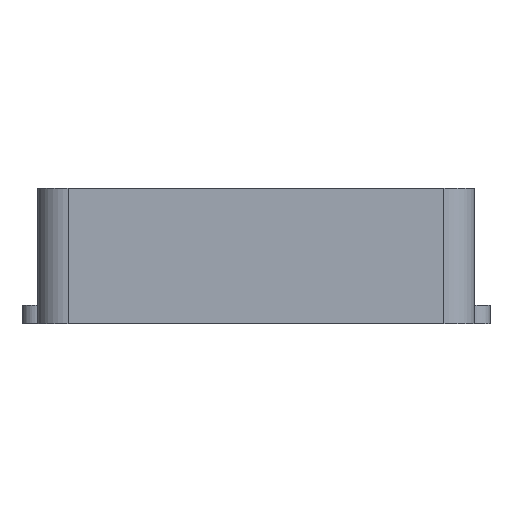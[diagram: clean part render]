
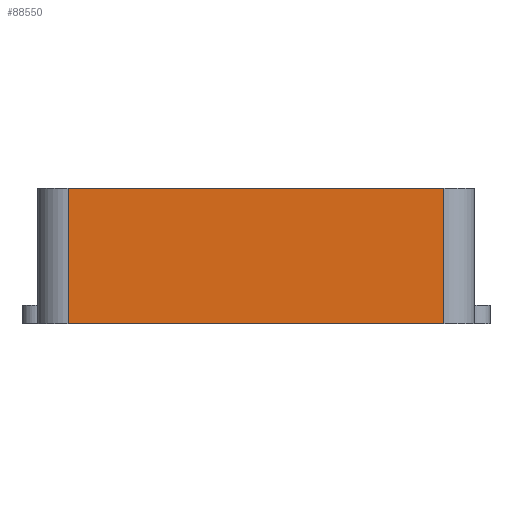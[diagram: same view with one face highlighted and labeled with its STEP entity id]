
A CAD part, left-side view. The second image highlights one B-rep face of the part: STEP entity #88550.
In plain terms, the highlighted planar face has unit normal (-1, 0, 0).
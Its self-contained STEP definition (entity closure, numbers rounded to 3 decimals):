
#41460=CARTESIAN_POINT('',(1.549,-5.042,0.));
#41470=VERTEX_POINT('',#41460);
#41500=CARTESIAN_POINT('',(1.549,-5.042,0.));
#41510=DIRECTION('',(0.,0.,1.));
#41520=VECTOR('',#41510,1.);
#41530=LINE('',#41500,#41520);
#41540=CARTESIAN_POINT('',(1.549,-5.042,0.88));
#41550=VERTEX_POINT('',#41540);
#41560=EDGE_CURVE('',#41470,#41550,#41530,.T.);
#51900=CARTESIAN_POINT('',(1.549,-2.592,0.));
#51910=VERTEX_POINT('',#51900);
#51940=CARTESIAN_POINT('',(1.549,-3.007,0.));
#51950=DIRECTION('',(0.,-1.,0.));
#51960=VECTOR('',#51950,1.);
#51970=LINE('',#51940,#51960);
#51980=EDGE_CURVE('',#51910,#41470,#51970,.T.);
#72470=CARTESIAN_POINT('',(1.549,-2.592,0.88));
#72480=VERTEX_POINT('',#72470);
#72510=CARTESIAN_POINT('',(1.549,-2.592,0.88));
#72520=DIRECTION('',(0.,0.,-1.));
#72530=VECTOR('',#72520,1.);
#72540=LINE('',#72510,#72530);
#72550=EDGE_CURVE('',#72480,#51910,#72540,.T.);
#88390=CARTESIAN_POINT('',(1.549,-2.807,0.));
#88400=DIRECTION('',(-1.,0.,0.));
#88410=DIRECTION('',(0.,1.,0.));
#88420=AXIS2_PLACEMENT_3D('',#88390,#88400,#88410);
#88430=PLANE('',#88420);
#88440=ORIENTED_EDGE('',*,*,#72550,.T.);
#88450=CARTESIAN_POINT('',(1.549,-7.635,0.88));
#88460=DIRECTION('',(0.,1.,0.));
#88470=VECTOR('',#88460,1.);
#88480=LINE('',#88450,#88470);
#88490=EDGE_CURVE('',#41550,#72480,#88480,.T.);
#88500=ORIENTED_EDGE('',*,*,#88490,.T.);
#88510=ORIENTED_EDGE('',*,*,#41560,.T.);
#88520=ORIENTED_EDGE('',*,*,#51980,.T.);
#88530=EDGE_LOOP('',(#88520,#88510,#88500,#88440));
#88540=FACE_OUTER_BOUND('',#88530,.T.);
#88550=ADVANCED_FACE('',(#88540),#88430,.T.);
